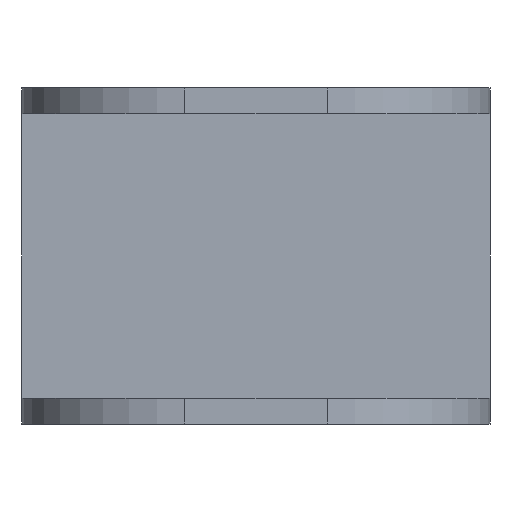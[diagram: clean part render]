
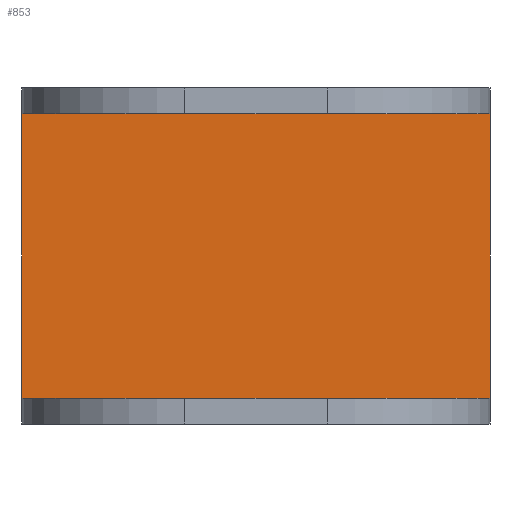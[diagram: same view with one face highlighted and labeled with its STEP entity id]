
A CAD part, front view. The second image highlights one B-rep face of the part: STEP entity #853.
In plain terms, the highlighted planar face has unit normal (0, -1, 0).
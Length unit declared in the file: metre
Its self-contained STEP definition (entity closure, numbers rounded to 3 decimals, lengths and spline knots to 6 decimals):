
#45=LINE('',#1253,#109);
#67=LINE('',#1297,#131);
#77=LINE('',#1355,#141);
#79=LINE('',#1363,#143);
#109=VECTOR('',#1002,1.);
#131=VECTOR('',#1028,1.);
#141=VECTOR('',#1098,1.);
#143=VECTOR('',#1112,1.);
#274=ORIENTED_EDGE('',*,*,#440,.T.);
#275=ORIENTED_EDGE('',*,*,#415,.F.);
#276=ORIENTED_EDGE('',*,*,#445,.F.);
#277=ORIENTED_EDGE('',*,*,#393,.T.);
#393=EDGE_CURVE('',#502,#501,#45,.T.);
#415=EDGE_CURVE('',#521,#512,#67,.T.);
#440=EDGE_CURVE('',#501,#512,#77,.T.);
#445=EDGE_CURVE('',#502,#521,#79,.T.);
#501=VERTEX_POINT('',#1252);
#502=VERTEX_POINT('',#1254);
#512=VERTEX_POINT('',#1278);
#521=VERTEX_POINT('',#1296);
#662=EDGE_LOOP('',(#274,#275,#276,#277));
#760=FACE_BOUND('',#662,.T.);
#822=PLANE('',#932);
#853=ADVANCED_FACE('',(#760),#822,.F.);
#932=AXIS2_PLACEMENT_3D('',#1362,#1110,#1111);
#1002=DIRECTION('',(0.,0.,-1.));
#1028=DIRECTION('',(0.,0.,-1.));
#1098=DIRECTION('',(1.,0.,0.));
#1110=DIRECTION('',(0.,1.,0.));
#1111=DIRECTION('',(0.,0.,1.));
#1112=DIRECTION('',(1.,0.,0.));
#1252=CARTESIAN_POINT('',(0.,-0.0075,0.003145));
#1253=CARTESIAN_POINT('',(0.,-0.0075,0.038145));
#1254=CARTESIAN_POINT('',(0.,-0.0075,0.038145));
#1278=CARTESIAN_POINT('',(0.0575,-0.0075,0.003145));
#1296=CARTESIAN_POINT('',(0.0575,-0.0075,0.038145));
#1297=CARTESIAN_POINT('',(0.0575,-0.0075,0.038145));
#1355=CARTESIAN_POINT('',(0.02875,-0.0075,0.003145));
#1362=CARTESIAN_POINT('',(0.02875,-0.0075,0.038145));
#1363=CARTESIAN_POINT('',(0.02875,-0.0075,0.038145));
